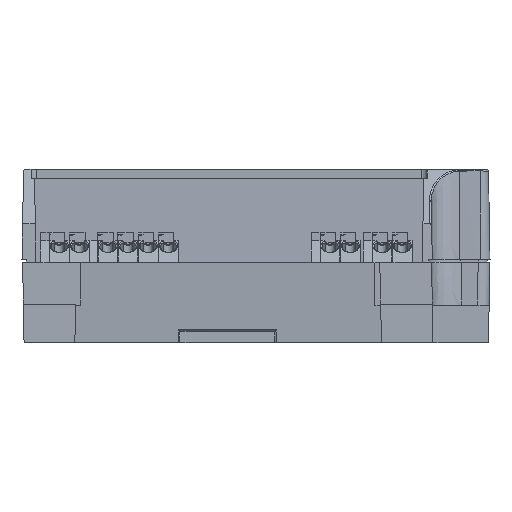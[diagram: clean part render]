
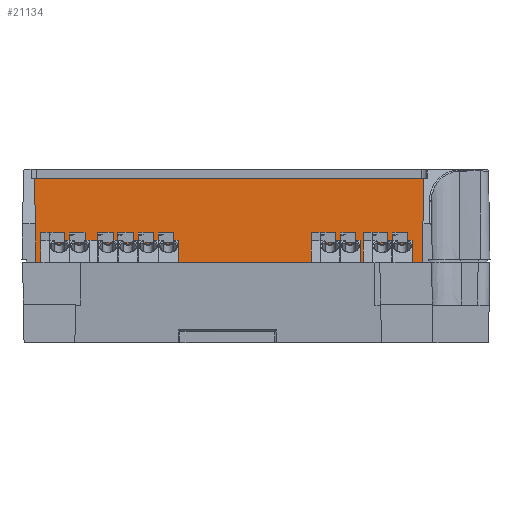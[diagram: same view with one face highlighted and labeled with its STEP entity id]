
A CAD part, front view. The second image highlights one B-rep face of the part: STEP entity #21134.
In plain terms, the highlighted planar face has unit normal (0, -1, 0.018).
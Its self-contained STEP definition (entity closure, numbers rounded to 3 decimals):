
#364 = VERTEX_POINT ( 'NONE', #27410 ) ;
#1913 = CARTESIAN_POINT ( 'NONE',  ( 78.568, 25.778, 108.607 ) ) ;
#1954 = CARTESIAN_POINT ( 'NONE',  ( 78.568, 25.778, 108.607 ) ) ;
#2141 = VECTOR ( 'NONE', #32492, 1000. ) ;
#2790 = CARTESIAN_POINT ( 'NONE',  ( 10.971, 25.387, 87.107 ) ) ;
#3460 = EDGE_CURVE ( 'NONE', #14533, #16047, #29421, .T. ) ;
#3529 = CARTESIAN_POINT ( 'NONE',  ( 10.895, 25.71, 104.87 ) ) ;
#3597 = DIRECTION ( 'NONE',  ( 0., 1., -0.018 ) ) ;
#3730 = DIRECTION ( 'NONE',  ( -0.017, 0.018, 1. ) ) ;
#3925 = LINE ( 'NONE', #12056, #17890 ) ;
#4625 = EDGE_CURVE ( 'NONE', #23403, #28178, #3925, .T. ) ;
#5122 = ORIENTED_EDGE ( 'NONE', *, *, #20575, .F. ) ;
#5295 = EDGE_CURVE ( 'NONE', #24339, #32193, #10899, .T. ) ;
#5525 = LINE ( 'NONE', #30326, #18678 ) ;
#5711 = EDGE_CURVE ( 'NONE', #10741, #364, #32656, .T. ) ;
#5870 = EDGE_CURVE ( 'NONE', #32193, #23403, #30160, .T. ) ;
#6866 = CARTESIAN_POINT ( 'NONE',  ( 78.502, 25.71, 104.87 ) ) ;
#8817 = PLANE ( 'NONE',  #25067 ) ;
#10015 = LINE ( 'NONE', #3529, #2141 ) ;
#10401 = DIRECTION ( 'NONE',  ( -0.017, -0.018, -1. ) ) ;
#10741 = VERTEX_POINT ( 'NONE', #31265 ) ;
#10899 = LINE ( 'NONE', #32587, #15399 ) ;
#11993 = DIRECTION ( 'NONE',  ( 1., 0., 0. ) ) ;
#12056 = CARTESIAN_POINT ( 'NONE',  ( 10.088, 25.71, 104.888 ) ) ;
#12925 = EDGE_CURVE ( 'NONE', #28178, #14533, #23387, .T. ) ;
#14533 = VERTEX_POINT ( 'NONE', #1954 ) ;
#15399 = VECTOR ( 'NONE', #3730, 1000. ) ;
#15485 = VECTOR ( 'NONE', #20320, 1000. ) ;
#16047 = VERTEX_POINT ( 'NONE', #6866 ) ;
#16204 = CARTESIAN_POINT ( 'NONE',  ( 10.088, 25.71, 104.888 ) ) ;
#16381 = VECTOR ( 'NONE', #11993, 1000. ) ;
#16978 = ORIENTED_EDGE ( 'NONE', *, *, #5870, .F. ) ;
#17820 = ORIENTED_EDGE ( 'NONE', *, *, #12925, .F. ) ;
#17890 = VECTOR ( 'NONE', #27771, 1000. ) ;
#18678 = VECTOR ( 'NONE', #33005, 1000. ) ;
#18816 = CARTESIAN_POINT ( 'NONE',  ( 10.895, 25.71, 104.888 ) ) ;
#19035 = ORIENTED_EDGE ( 'NONE', *, *, #27546, .F. ) ;
#19340 = CARTESIAN_POINT ( 'NONE',  ( 10.895, 25.378, 86.607 ) ) ;
#20320 = DIRECTION ( 'NONE',  ( -0.017, -0.018, -1. ) ) ;
#20575 = EDGE_CURVE ( 'NONE', #16047, #10741, #10015, .T. ) ;
#21134 = ADVANCED_FACE ( 'NONE', ( #30874 ), #8817, .F. ) ;
#21475 = DIRECTION ( 'NONE',  ( -1., 0., 0. ) ) ;
#22011 = DIRECTION ( 'NONE',  ( 0., 0.018, 1. ) ) ;
#22105 = CARTESIAN_POINT ( 'NONE',  ( 10.66, 25.71, 104.888 ) ) ;
#23194 = VECTOR ( 'NONE', #21475, 1000. ) ;
#23387 = LINE ( 'NONE', #30319, #16381 ) ;
#23403 = VERTEX_POINT ( 'NONE', #16204 ) ;
#24339 = VERTEX_POINT ( 'NONE', #2790 ) ;
#24862 = EDGE_LOOP ( 'NONE', ( #26602, #5122, #32131, #17820, #34064, #16978, #33715, #19035 ) ) ;
#25067 = AXIS2_PLACEMENT_3D ( 'NONE', #19340, #3597, #22011 ) ;
#25661 = VECTOR ( 'NONE', #10401, 1000. ) ;
#26602 = ORIENTED_EDGE ( 'NONE', *, *, #5711, .F. ) ;
#27410 = CARTESIAN_POINT ( 'NONE',  ( 77.62, 25.387, 87.107 ) ) ;
#27546 = EDGE_CURVE ( 'NONE', #364, #24339, #5525, .T. ) ;
#27771 = DIRECTION ( 'NONE',  ( -0.017, 0.018, 1. ) ) ;
#28178 = VERTEX_POINT ( 'NONE', #33720 ) ;
#29421 = LINE ( 'NONE', #1913, #15485 ) ;
#30160 = LINE ( 'NONE', #18816, #23194 ) ;
#30319 = CARTESIAN_POINT ( 'NONE',  ( 10.895, 25.778, 108.607 ) ) ;
#30326 = CARTESIAN_POINT ( 'NONE',  ( 10.895, 25.387, 87.107 ) ) ;
#30874 = FACE_OUTER_BOUND ( 'NONE', #24862, .T. ) ;
#31265 = CARTESIAN_POINT ( 'NONE',  ( 77.93, 25.71, 104.87 ) ) ;
#32131 = ORIENTED_EDGE ( 'NONE', *, *, #3460, .F. ) ;
#32193 = VERTEX_POINT ( 'NONE', #22105 ) ;
#32492 = DIRECTION ( 'NONE',  ( -1., 0., 0. ) ) ;
#32587 = CARTESIAN_POINT ( 'NONE',  ( 10.971, 25.387, 87.107 ) ) ;
#32656 = LINE ( 'NONE', #33899, #25661 ) ;
#33005 = DIRECTION ( 'NONE',  ( -1., 0., 0. ) ) ;
#33715 = ORIENTED_EDGE ( 'NONE', *, *, #5295, .F. ) ;
#33720 = CARTESIAN_POINT ( 'NONE',  ( 10.023, 25.778, 108.607 ) ) ;
#33899 = CARTESIAN_POINT ( 'NONE',  ( 77.93, 25.71, 104.87 ) ) ;
#34064 = ORIENTED_EDGE ( 'NONE', *, *, #4625, .F. ) ;
